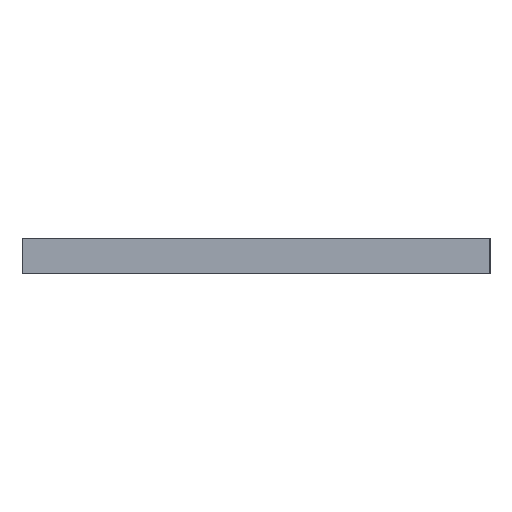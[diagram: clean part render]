
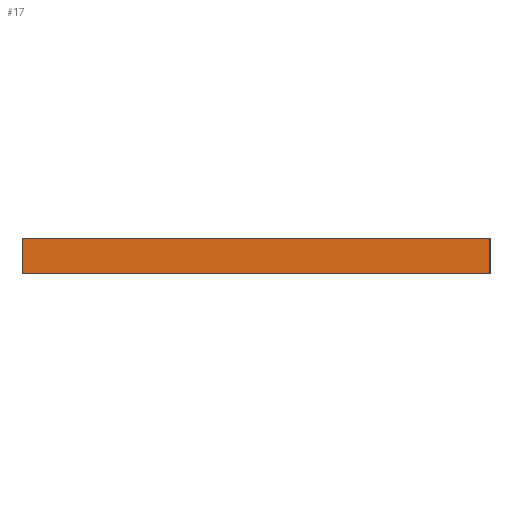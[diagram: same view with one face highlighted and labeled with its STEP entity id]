
A CAD part, left-side view. The second image highlights one B-rep face of the part: STEP entity #17.
In plain terms, the highlighted planar face has unit normal (-1, 0, 0).
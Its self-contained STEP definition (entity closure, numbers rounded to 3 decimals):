
#17 = ADVANCED_FACE('',(#18),#32,.F.);
#18 = FACE_BOUND('',#19,.F.);
#19 = EDGE_LOOP('',(#20,#55,#83,#111));
#20 = ORIENTED_EDGE('',*,*,#21,.F.);
#21 = EDGE_CURVE('',#22,#24,#26,.T.);
#22 = VERTEX_POINT('',#23);
#23 = CARTESIAN_POINT('',(-27.,7.,286.));
#24 = VERTEX_POINT('',#25);
#25 = CARTESIAN_POINT('',(-27.,7.,289.));
#26 = SURFACE_CURVE('',#27,(#31,#43),.PCURVE_S1.);
#27 = LINE('',#28,#29);
#28 = CARTESIAN_POINT('',(-27.,7.,286.));
#29 = VECTOR('',#30,1.);
#30 = DIRECTION('',(0.,0.,1.));
#31 = PCURVE('',#32,#37);
#32 = PLANE('',#33);
#33 = AXIS2_PLACEMENT_3D('',#34,#35,#36);
#34 = CARTESIAN_POINT('',(-27.,7.,286.));
#35 = DIRECTION('',(1.,0.,0.));
#36 = DIRECTION('',(0.,0.,1.));
#37 = DEFINITIONAL_REPRESENTATION('',(#38),#42);
#38 = LINE('',#39,#40);
#39 = CARTESIAN_POINT('',(0.,0.));
#40 = VECTOR('',#41,1.);
#41 = DIRECTION('',(1.,0.));
#42 = ( GEOMETRIC_REPRESENTATION_CONTEXT(2) 
PARAMETRIC_REPRESENTATION_CONTEXT() REPRESENTATION_CONTEXT('2D SPACE',''
  ) );
#43 = PCURVE('',#44,#49);
#44 = PLANE('',#45);
#45 = AXIS2_PLACEMENT_3D('',#46,#47,#48);
#46 = CARTESIAN_POINT('',(-27.,7.,286.));
#47 = DIRECTION('',(0.,1.,0.));
#48 = DIRECTION('',(0.,0.,1.));
#49 = DEFINITIONAL_REPRESENTATION('',(#50),#54);
#50 = LINE('',#51,#52);
#51 = CARTESIAN_POINT('',(0.,0.));
#52 = VECTOR('',#53,1.);
#53 = DIRECTION('',(1.,0.));
#54 = ( GEOMETRIC_REPRESENTATION_CONTEXT(2) 
PARAMETRIC_REPRESENTATION_CONTEXT() REPRESENTATION_CONTEXT('2D SPACE',''
  ) );
#55 = ORIENTED_EDGE('',*,*,#56,.T.);
#56 = EDGE_CURVE('',#22,#57,#59,.T.);
#57 = VERTEX_POINT('',#58);
#58 = CARTESIAN_POINT('',(-27.,47.,286.));
#59 = SURFACE_CURVE('',#60,(#64,#71),.PCURVE_S1.);
#60 = LINE('',#61,#62);
#61 = CARTESIAN_POINT('',(-27.,7.,286.));
#62 = VECTOR('',#63,1.);
#63 = DIRECTION('',(0.,1.,0.));
#64 = PCURVE('',#32,#65);
#65 = DEFINITIONAL_REPRESENTATION('',(#66),#70);
#66 = LINE('',#67,#68);
#67 = CARTESIAN_POINT('',(0.,0.));
#68 = VECTOR('',#69,1.);
#69 = DIRECTION('',(0.,-1.));
#70 = ( GEOMETRIC_REPRESENTATION_CONTEXT(2) 
PARAMETRIC_REPRESENTATION_CONTEXT() REPRESENTATION_CONTEXT('2D SPACE',''
  ) );
#71 = PCURVE('',#72,#77);
#72 = PLANE('',#73);
#73 = AXIS2_PLACEMENT_3D('',#74,#75,#76);
#74 = CARTESIAN_POINT('',(-27.,7.,286.));
#75 = DIRECTION('',(0.,0.,1.));
#76 = DIRECTION('',(1.,0.,0.));
#77 = DEFINITIONAL_REPRESENTATION('',(#78),#82);
#78 = LINE('',#79,#80);
#79 = CARTESIAN_POINT('',(0.,0.));
#80 = VECTOR('',#81,1.);
#81 = DIRECTION('',(0.,1.));
#82 = ( GEOMETRIC_REPRESENTATION_CONTEXT(2) 
PARAMETRIC_REPRESENTATION_CONTEXT() REPRESENTATION_CONTEXT('2D SPACE',''
  ) );
#83 = ORIENTED_EDGE('',*,*,#84,.T.);
#84 = EDGE_CURVE('',#57,#85,#87,.T.);
#85 = VERTEX_POINT('',#86);
#86 = CARTESIAN_POINT('',(-27.,47.,289.));
#87 = SURFACE_CURVE('',#88,(#92,#99),.PCURVE_S1.);
#88 = LINE('',#89,#90);
#89 = CARTESIAN_POINT('',(-27.,47.,286.));
#90 = VECTOR('',#91,1.);
#91 = DIRECTION('',(0.,0.,1.));
#92 = PCURVE('',#32,#93);
#93 = DEFINITIONAL_REPRESENTATION('',(#94),#98);
#94 = LINE('',#95,#96);
#95 = CARTESIAN_POINT('',(0.,-40.));
#96 = VECTOR('',#97,1.);
#97 = DIRECTION('',(1.,0.));
#98 = ( GEOMETRIC_REPRESENTATION_CONTEXT(2) 
PARAMETRIC_REPRESENTATION_CONTEXT() REPRESENTATION_CONTEXT('2D SPACE',''
  ) );
#99 = PCURVE('',#100,#105);
#100 = PLANE('',#101);
#101 = AXIS2_PLACEMENT_3D('',#102,#103,#104);
#102 = CARTESIAN_POINT('',(-27.,47.,286.));
#103 = DIRECTION('',(0.,1.,0.));
#104 = DIRECTION('',(0.,0.,1.));
#105 = DEFINITIONAL_REPRESENTATION('',(#106),#110);
#106 = LINE('',#107,#108);
#107 = CARTESIAN_POINT('',(0.,0.));
#108 = VECTOR('',#109,1.);
#109 = DIRECTION('',(1.,0.));
#110 = ( GEOMETRIC_REPRESENTATION_CONTEXT(2) 
PARAMETRIC_REPRESENTATION_CONTEXT() REPRESENTATION_CONTEXT('2D SPACE',''
  ) );
#111 = ORIENTED_EDGE('',*,*,#112,.F.);
#112 = EDGE_CURVE('',#24,#85,#113,.T.);
#113 = SURFACE_CURVE('',#114,(#118,#125),.PCURVE_S1.);
#114 = LINE('',#115,#116);
#115 = CARTESIAN_POINT('',(-27.,7.,289.));
#116 = VECTOR('',#117,1.);
#117 = DIRECTION('',(0.,1.,0.));
#118 = PCURVE('',#32,#119);
#119 = DEFINITIONAL_REPRESENTATION('',(#120),#124);
#120 = LINE('',#121,#122);
#121 = CARTESIAN_POINT('',(3.,0.));
#122 = VECTOR('',#123,1.);
#123 = DIRECTION('',(0.,-1.));
#124 = ( GEOMETRIC_REPRESENTATION_CONTEXT(2) 
PARAMETRIC_REPRESENTATION_CONTEXT() REPRESENTATION_CONTEXT('2D SPACE',''
  ) );
#125 = PCURVE('',#126,#131);
#126 = PLANE('',#127);
#127 = AXIS2_PLACEMENT_3D('',#128,#129,#130);
#128 = CARTESIAN_POINT('',(-27.,7.,289.));
#129 = DIRECTION('',(0.,0.,1.));
#130 = DIRECTION('',(1.,0.,0.));
#131 = DEFINITIONAL_REPRESENTATION('',(#132),#136);
#132 = LINE('',#133,#134);
#133 = CARTESIAN_POINT('',(0.,0.));
#134 = VECTOR('',#135,1.);
#135 = DIRECTION('',(0.,1.));
#136 = ( GEOMETRIC_REPRESENTATION_CONTEXT(2) 
PARAMETRIC_REPRESENTATION_CONTEXT() REPRESENTATION_CONTEXT('2D SPACE',''
  ) );
